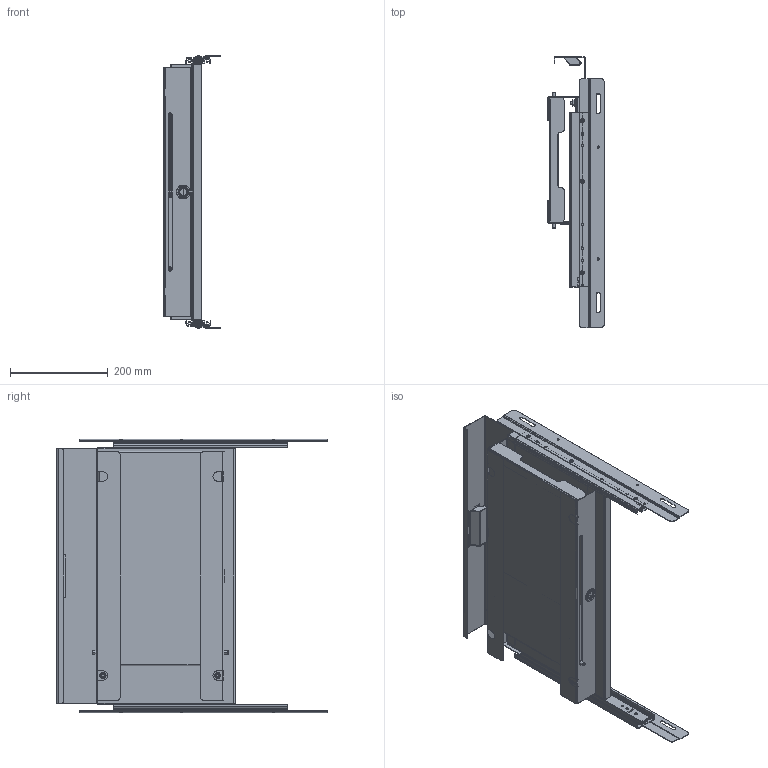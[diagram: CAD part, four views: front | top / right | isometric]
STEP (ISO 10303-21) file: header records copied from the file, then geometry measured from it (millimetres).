
FILE_DESCRIPTION((''),'2;1');
FILE_NAME('SCE-KBS_ASM','2014-09-19T',('joelb'),('SAGINAW CONTROL & ENGINEERING'),'PRO/ENGINEER BY PARAMETRIC TECHNOLOGY CORPORATION, 2012070','PRO/ENGINEER BY PARAMETRIC TECHNOLOGY CORPORATION, 2012070','');
FILE_SCHEMA(('AUTOMOTIVE_DESIGN { 1 0 10303 214 1 1 1 1 }'));
Length unit declared in the file: inch
Products named in the file (16): KBS-SHELF; 100945; 100057; KBS-SHELF-BRKT; 100877; 100860_CAB-MEM; 100860_INT-MEM; 100860_DRWR-MEM; 100860_ASM; 119611; 105570; KBS-DRAWER; 100009; 106753; 102645; SCE-KBS_ASM
Assembly tree (38 placements, depth 3):
  SCE-KBS_ASM
    KBS-SHELF
    100945
    100057  x4
    KBS-SHELF-BRKT  x2
    100877  x4
    100860_ASM
      100860_CAB-MEM  x2
      100860_INT-MEM  x2
      100860_DRWR-MEM  x2
    119611  x2
    105570  x12
    KBS-DRAWER
    100009  x2
    106753
    102645
Bounding box: 114.65 x 554.47 x 558.01 mm (x, y, z)
Volume: 1244557.4 mm3; surface area: 1509248.4 mm2
Topology: 41 solids, 41 shells, 2054 faces, 5114 edges, 3142 vertices
Faces by surface type: plane 998, cylinder 679, bspline 159, torus 106, cone 60, sphere 52
Entity records: 37852 total; most frequent: CARTESIAN_POINT 7585, DIRECTION 5056, ORIENTED_EDGE 4808, EDGE_CURVE 2404, AXIS2_PLACEMENT_3D 1839, PRESENTATION_STYLE_ASSIGNMENT 1719, STYLED_ITEM 1704, CURVE_STYLE 1560
